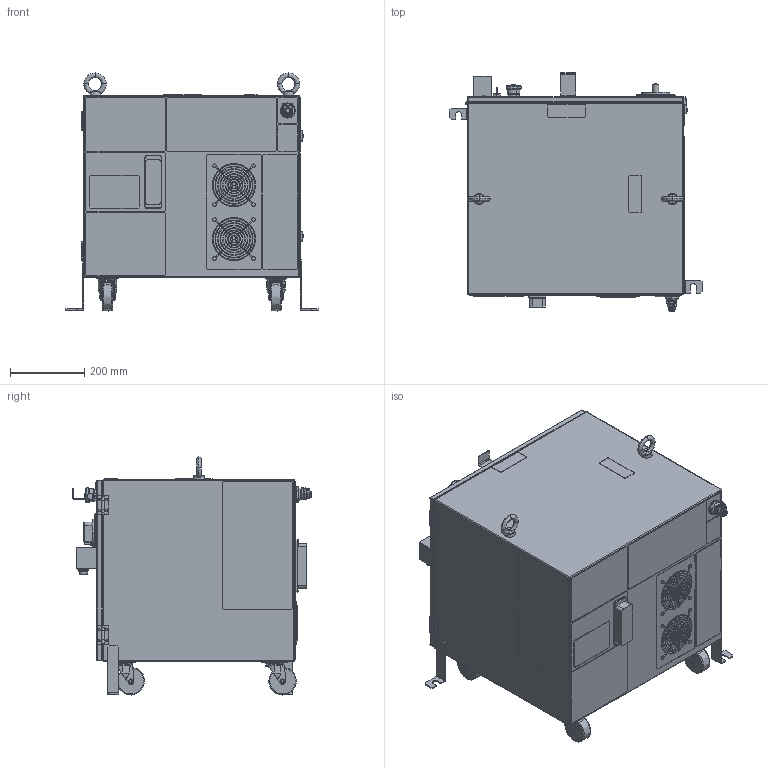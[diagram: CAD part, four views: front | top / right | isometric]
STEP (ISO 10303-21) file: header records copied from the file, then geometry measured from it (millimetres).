
FILE_DESCRIPTION(('CATIA V5 STEP Exchange'),'2;1');
FILE_NAME('C:\Users\rbt00138\Desktop\Controller\FD20\FD20_AS\FD20-x01_2022519\FD20-x01_caster.stp','2022-05-19T01:39:06+00:00',('none'),('none'),'CATIA Version 5-6 Release 2016 SP3','CATIA V5 STEP AP203','none');
FILE_SCHEMA(('CONFIG_CONTROL_DESIGN'));
Products named in the file (1): FD20-x01_caster
Bounding box: 681.2 x 642 x 639.89 mm (x, y, z)
Volume: 152995393.2 mm3; surface area: 2139796.1 mm2
Topology: 30 solids, 30 shells, 1961 faces, 5309 edges, 3393 vertices
Faces by surface type: plane 1055, cylinder 623, revolution 261, bspline 22
Entity records: 73034 total; most frequent: CARTESIAN_POINT 26154, ORIENTED_EDGE 10442, DIRECTION 7777, EDGE_CURVE 5221, VERTEX_POINT 3393, AXIS2_PLACEMENT_3D 3034, VECTOR 2805, LINE 2805
